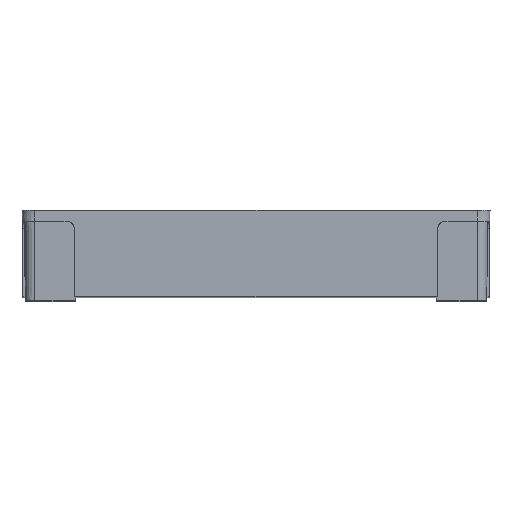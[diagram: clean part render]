
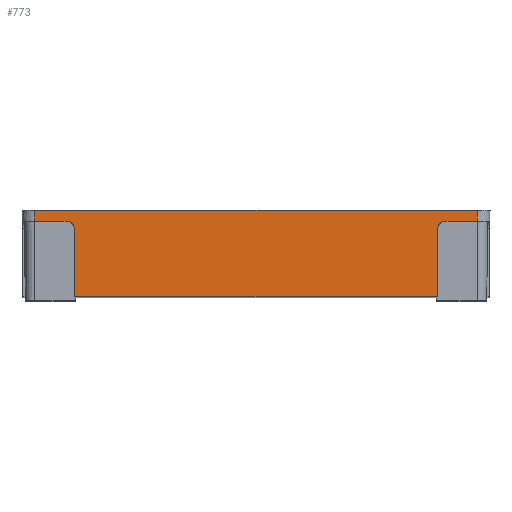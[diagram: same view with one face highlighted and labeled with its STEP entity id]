
A CAD part, top view. The second image highlights one B-rep face of the part: STEP entity #773.
In plain terms, the highlighted planar face has unit normal (0, -0.009, 1).
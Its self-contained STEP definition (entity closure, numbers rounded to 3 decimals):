
#607 = VERTEX_POINT ( 'NONE', #3815 ) ;
#609 = EDGE_CURVE ( 'NONE', #610, #607, #3814, .T. ) ;
#610 = VERTEX_POINT ( 'NONE', #3810 ) ;
#671 = VERTEX_POINT ( 'NONE', #3904 ) ;
#672 = VERTEX_POINT ( 'NONE', #3903 ) ;
#701 = EDGE_CURVE ( 'NONE', #671, #672, #3957, .T. ) ;
#723 = ORIENTED_EDGE ( 'NONE', *, *, #724, .F. ) ;
#724 = EDGE_CURVE ( 'NONE', #725, #607, #3977, .T. ) ;
#725 = VERTEX_POINT ( 'NONE', #4023 ) ;
#726 = VERTEX_POINT ( 'NONE', #4022 ) ;
#763 = EDGE_LOOP ( 'NONE', ( #723, #843, #845, #785, #765, #767, #768, #786, #792, #803 ) ) ;
#764 = VERTEX_POINT ( 'NONE', #4086 ) ;
#765 = ORIENTED_EDGE ( 'NONE', *, *, #766, .F. ) ;
#766 = EDGE_CURVE ( 'NONE', #672, #842, #4085, .T. ) ;
#767 = ORIENTED_EDGE ( 'NONE', *, *, #701, .F. ) ;
#768 = ORIENTED_EDGE ( 'NONE', *, *, #769, .T. ) ;
#769 = EDGE_CURVE ( 'NONE', #671, #770, #4081, .T. ) ;
#770 = VERTEX_POINT ( 'NONE', #4077 ) ;
#771 = VERTEX_POINT ( 'NONE', #4076 ) ;
#773 = ADVANCED_FACE ( 'NONE', ( #4070 ), #4069, .T. ) ;
#785 = ORIENTED_EDGE ( 'NONE', *, *, #848, .T. ) ;
#786 = ORIENTED_EDGE ( 'NONE', *, *, #787, .T. ) ;
#787 = EDGE_CURVE ( 'NONE', #770, #771, #3622, .T. ) ;
#788 = EDGE_CURVE ( 'NONE', #610, #771, #4138, .T. ) ;
#792 = ORIENTED_EDGE ( 'NONE', *, *, #788, .F. ) ;
#803 = ORIENTED_EDGE ( 'NONE', *, *, #609, .T. ) ;
#842 = VERTEX_POINT ( 'NONE', #4171 ) ;
#843 = ORIENTED_EDGE ( 'NONE', *, *, #844, .T. ) ;
#844 = EDGE_CURVE ( 'NONE', #725, #726, #4170, .T. ) ;
#845 = ORIENTED_EDGE ( 'NONE', *, *, #846, .F. ) ;
#846 = EDGE_CURVE ( 'NONE', #764, #726, #4210, .T. ) ;
#848 = EDGE_CURVE ( 'NONE', #764, #842, #4206, .T. ) ;
#3622 =( BOUNDED_CURVE ( )  B_SPLINE_CURVE ( 3, ( #4142, #4141, #4140, #4139 ),
 .UNSPECIFIED., .F., .F. ) 
 B_SPLINE_CURVE_WITH_KNOTS ( ( 4, 4 ),
 ( 3.142, 4.704 ),
 .UNSPECIFIED. ) 
 CURVE ( )  GEOMETRIC_REPRESENTATION_ITEM ( )  RATIONAL_B_SPLINE_CURVE ( ( 1., 0.807, 0.807, 1. ) ) 
 REPRESENTATION_ITEM ( '' )  );
#3810 = CARTESIAN_POINT ( 'NONE',  ( -50.367, -24., 89.841 ) ) ;
#3811 = DIRECTION ( 'NONE',  ( 1., 0., 0. ) ) ;
#3812 = VECTOR ( 'NONE', #3811, 1000. ) ;
#3813 = CARTESIAN_POINT ( 'NONE',  ( -61.55, -24., 89.841 ) ) ;
#3814 = LINE ( 'NONE', #3813, #3812 ) ;
#3815 = CARTESIAN_POINT ( 'NONE',  ( 50.367, -24., 89.841 ) ) ;
#3903 = CARTESIAN_POINT ( 'NONE',  ( -61.55, 0., 90.05 ) ) ;
#3904 = CARTESIAN_POINT ( 'NONE',  ( -61.55, -3., 90.024 ) ) ;
#3954 = DIRECTION ( 'NONE',  ( 0., 1., 0.009 ) ) ;
#3955 = VECTOR ( 'NONE', #3954, 1000. ) ;
#3956 = CARTESIAN_POINT ( 'NONE',  ( -61.55, 0., 90.05 ) ) ;
#3957 = LINE ( 'NONE', #3956, #3955 ) ;
#3977 = LINE ( 'NONE', #4026, #4025 ) ;
#4022 = CARTESIAN_POINT ( 'NONE',  ( 52.533, -3., 90.024 ) ) ;
#4023 = CARTESIAN_POINT ( 'NONE',  ( 50.533, -4.983, 90.007 ) ) ;
#4024 = DIRECTION ( 'NONE',  ( -0.009, -1., -0.009 ) ) ;
#4025 = VECTOR ( 'NONE', #4024, 1000. ) ;
#4026 = CARTESIAN_POINT ( 'NONE',  ( 50.568, -0.978, 90.041 ) ) ;
#4065 = DIRECTION ( 'NONE',  ( 0., -1., -0.009 ) ) ;
#4066 = DIRECTION ( 'NONE',  ( 0., -0.009, 1. ) ) ;
#4067 = CARTESIAN_POINT ( 'NONE',  ( -61.55, 0., 90.05 ) ) ;
#4068 = AXIS2_PLACEMENT_3D ( 'NONE', #4067, #4066, #4065 ) ;
#4069 = PLANE ( 'NONE',  #4068 ) ;
#4070 = FACE_OUTER_BOUND ( 'NONE', #763, .T. ) ;
#4076 = CARTESIAN_POINT ( 'NONE',  ( -50.533, -4.983, 90.007 ) ) ;
#4077 = CARTESIAN_POINT ( 'NONE',  ( -52.533, -3., 90.024 ) ) ;
#4078 = DIRECTION ( 'NONE',  ( 1., 0., 0. ) ) ;
#4079 = VECTOR ( 'NONE', #4078, 1000. ) ;
#4080 = CARTESIAN_POINT ( 'NONE',  ( -61.55, -3., 90.024 ) ) ;
#4081 = LINE ( 'NONE', #4080, #4079 ) ;
#4082 = DIRECTION ( 'NONE',  ( 1., 0., 0. ) ) ;
#4083 = VECTOR ( 'NONE', #4082, 1000. ) ;
#4084 = CARTESIAN_POINT ( 'NONE',  ( -61.55, 0., 90.05 ) ) ;
#4085 = LINE ( 'NONE', #4084, #4083 ) ;
#4086 = CARTESIAN_POINT ( 'NONE',  ( 61.55, -3., 90.024 ) ) ;
#4135 = DIRECTION ( 'NONE',  ( -0.009, 1., 0.009 ) ) ;
#4136 = VECTOR ( 'NONE', #4135, 1000. ) ;
#4137 = CARTESIAN_POINT ( 'NONE',  ( -50.577, 0.096, 90.051 ) ) ;
#4138 = LINE ( 'NONE', #4137, #4136 ) ;
#4139 = CARTESIAN_POINT ( 'NONE',  ( -50.533, -4.983, 90.007 ) ) ;
#4140 = CARTESIAN_POINT ( 'NONE',  ( -50.543, -3.819, 90.017 ) ) ;
#4141 = CARTESIAN_POINT ( 'NONE',  ( -51.369, -3., 90.024 ) ) ;
#4142 = CARTESIAN_POINT ( 'NONE',  ( -52.533, -3., 90.024 ) ) ;
#4167 = CARTESIAN_POINT ( 'NONE',  ( 51.369, -3., 90.024 ) ) ;
#4168 = CARTESIAN_POINT ( 'NONE',  ( 50.543, -3.819, 90.017 ) ) ;
#4169 = CARTESIAN_POINT ( 'NONE',  ( 50.533, -4.983, 90.007 ) ) ;
#4170 =( BOUNDED_CURVE ( )  B_SPLINE_CURVE ( 3, ( #4169, #4168, #4167, #4211 ),
 .UNSPECIFIED., .F., .T. ) 
 B_SPLINE_CURVE_WITH_KNOTS ( ( 4, 4 ),
 ( 1.58, 3.142 ),
 .UNSPECIFIED. ) 
 CURVE ( )  GEOMETRIC_REPRESENTATION_ITEM ( )  RATIONAL_B_SPLINE_CURVE ( ( 1., 0.807, 0.807, 1. ) ) 
 REPRESENTATION_ITEM ( '' )  );
#4171 = CARTESIAN_POINT ( 'NONE',  ( 61.55, 0., 90.05 ) ) ;
#4203 = DIRECTION ( 'NONE',  ( 0., 1., 0.009 ) ) ;
#4204 = VECTOR ( 'NONE', #4203, 1000. ) ;
#4205 = CARTESIAN_POINT ( 'NONE',  ( 61.55, 0., 90.05 ) ) ;
#4206 = LINE ( 'NONE', #4205, #4204 ) ;
#4207 = DIRECTION ( 'NONE',  ( -1., 0., 0. ) ) ;
#4208 = VECTOR ( 'NONE', #4207, 1000. ) ;
#4209 = CARTESIAN_POINT ( 'NONE',  ( -61.55, -3., 90.024 ) ) ;
#4210 = LINE ( 'NONE', #4209, #4208 ) ;
#4211 = CARTESIAN_POINT ( 'NONE',  ( 52.533, -3., 90.024 ) ) ;
